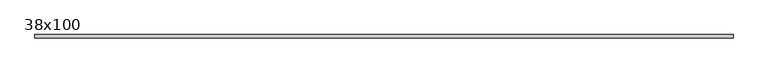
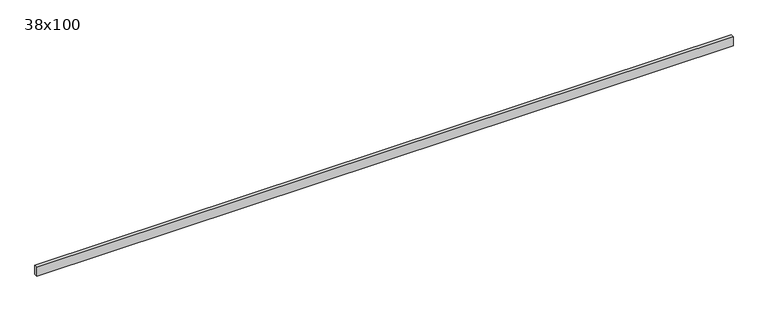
"""IFC4 building model written with IfcOpenShell, lengths in millimetres: beam geometry, Poutre - Bois de construction de dimensions courantes : 38x100."""

from ifc_helpers import new_model, si_unit, frame, origin, place, context, project, spatial, polyline, outline, extrude, source, transform, mapped, element, save


def beam_38x100_9dba4e7f(model_context):
    return source(origin(), model_context, "Body", "SweptSolid", [
        extrude(outline(polyline([(3820.0, 19.05), (3820.0, -19.05), (-3820.0, -19.05), (-3820.0, 19.05), (3820.0, 19.05)])), frame((0.0, 0.0, -50.0), z_axis=(0.0, 0.0, 1.0), x_axis=(1.0, 0.0, 0.0)), (0.0, 0.0, 1.0), 100.0),
    ])


if __name__ == "__main__":
    model = new_model("IFC4")
    model_context = context("Model", 3, world=origin())
    ifc_project = project(units=[si_unit("LENGTHUNIT", "METRE", prefix="MILLI")], contexts=[model_context])
    site = spatial("IfcSite", under=ifc_project)
    building = spatial("IfcBuilding", under=site)
    placement = place(None, origin())
    beam_38x100_shape = beam_38x100_9dba4e7f(model_context)
    element("IfcBeam", 1, ObjectType="Poutre - Bois de construction de dimensions courantes : 38x100", at=placement, inside=building, context=model_context, shape_type="MappedRepresentation", body=[
        mapped(beam_38x100_shape, transform((0.0, 0.0, 0.0), x_axis=(1.0, 0.0, 0.0), y_axis=(0.0, 1.0, 0.0), z_axis=(0.0, 0.0, 1.0))),
    ])
    save(model, "model.ifc")
